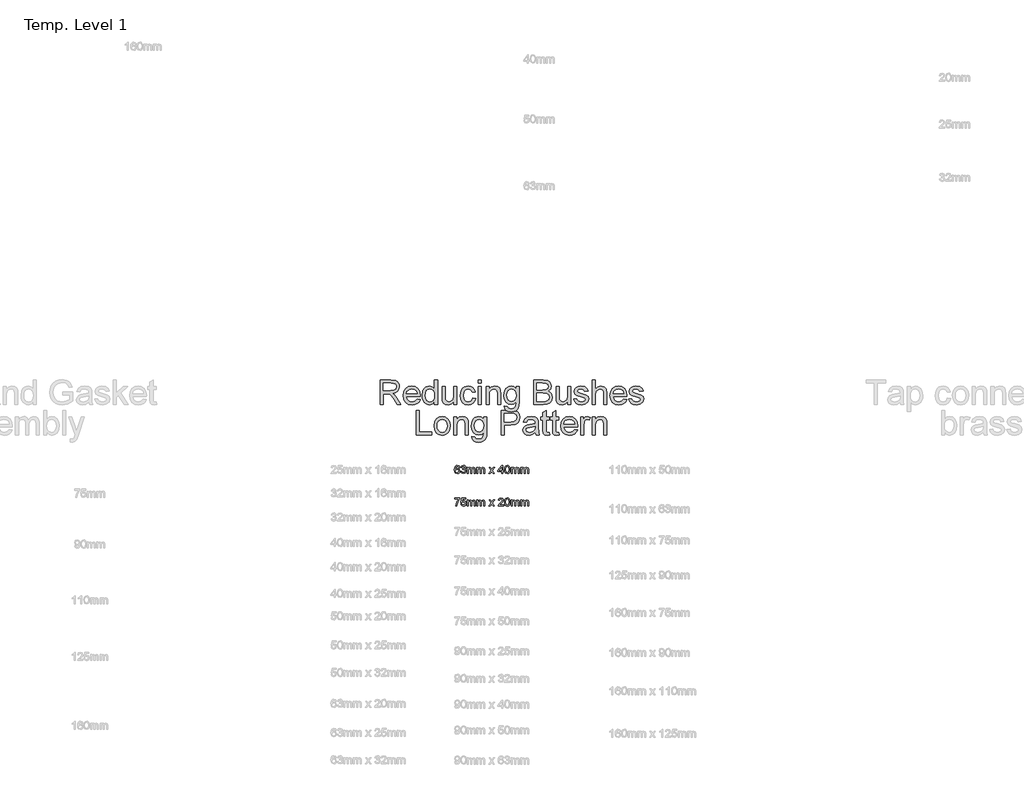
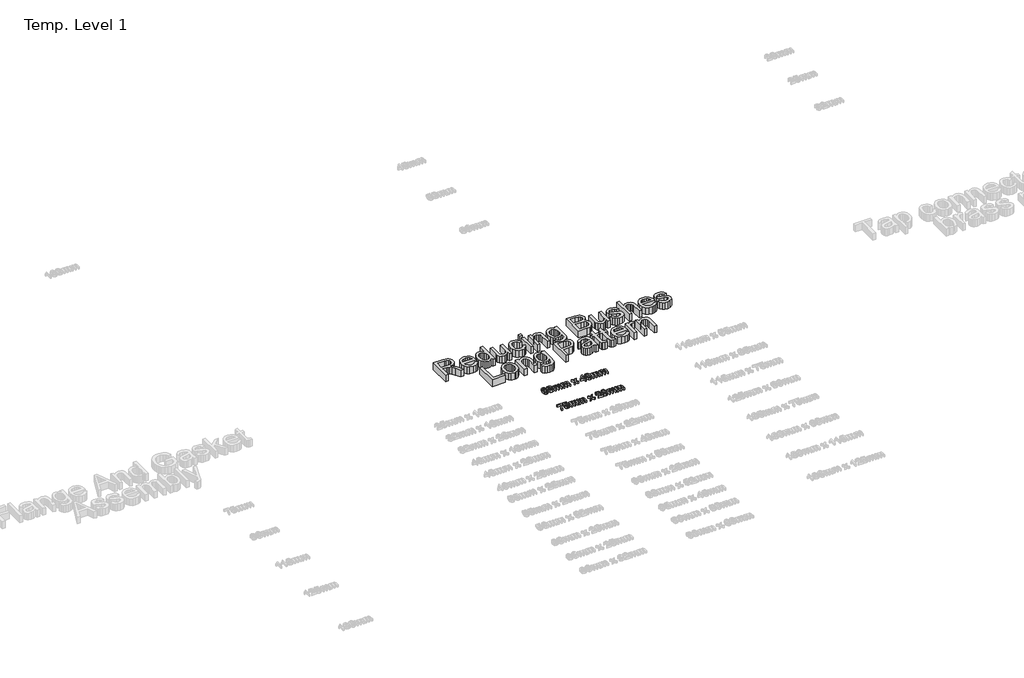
# One storey, part 47 of 62: 3 proxies.
"""IFC4 building model written with IfcOpenShell, lengths in millimetres."""

from ifc_helpers import new_model, si_unit, origin, origin_with_axes, place, context, project, spatial, polyline, outline, extrude, element, save

model = new_model("IFC4")

# Units and contexts
model_context = context("Model", 3, world=origin())
ifc_project = project(units=[si_unit("LENGTHUNIT", "METRE", prefix="MILLI")], contexts=[model_context])

# Site, building, storey
site = spatial("IfcSite", under=ifc_project)
building = spatial("IfcBuilding", under=site)
storey = spatial("IfcBuildingStorey", under=building, Name="Temp. Level 1", Elevation=0.0)

# Proxies
placement = place(None, origin())
element("IfcBuildingElementProxy", 1, Name="150mm Arial", ObjectType="150mm Arial", at=placement, inside=storey, context=model_context, shape_type="SweptSolid", body=[
    extrude(outline(polyline([(23633.4253288, -3979.0446709), (23633.4253288, -3831.3523632), (23697.0671558, -3831.3523632), (23726.6164346, -3835.3367382), (23735.7119875, -3840.8535651), (23742.7702808, -3849.4352959), (23747.3000284, -3860.0768223), (23748.8099442, -3871.7730362), (23746.3084418, -3886.3223151), (23738.8039346, -3898.3836132), (23726.071062, -3907.2267622), (23707.8844635, -3912.1215939), (23718.3772519, -3920.0182286), (23733.3411942, -3939.0206324), (23757.9685981, -3979.0446709), (23736.5142712, -3979.0446709), (23717.2955212, -3948.4316901), (23703.4133096, -3928.167267), (23693.6597038, -3918.5939497), (23684.8796558, -3915.0783247), (23674.1705212, -3914.4292862), (23651.8868673, -3914.4292862), (23651.8868673, -3979.0446709), (23633.4253288, -3979.0446709)]), holes=[polyline([(23651.8868673, -3895.9677478), (23693.2089827, -3895.9677478), (23714.2847038, -3893.3535651), (23726.2558577, -3884.9881805), (23730.3484058, -3872.4581324), (23728.3967832, -3863.4527237), (23722.5419154, -3856.1961132), (23712.4682976, -3851.4094545), (23697.860425, -3849.8139016), (23651.8868673, -3849.8139016), (23651.8868673, -3895.9677478)])]), origin_with_axes(), (0.0, 0.0, 1.0), 50.0),
    extrude(outline(polyline([(23854.7474442, -3946.7369786), (23872.8484058, -3949.0446709), (23866.3264707, -3962.683493), (23855.9193192, -3972.8788055), (23841.8613264, -3979.2339737), (23824.3868673, -3981.3523632), (23802.7252087, -3977.6970146), (23786.0575404, -3966.7309689), (23775.4295356, -3949.1663656), (23771.8868673, -3925.7153439), (23775.4655933, -3901.4755603), (23786.2017712, -3883.3475555), (23802.6440788, -3872.0434689), (23823.3411942, -3868.2754401), (23843.3937784, -3872.0344545), (23859.4169154, -3883.3114978), (23869.9232255, -3901.4034449), (23873.4253288, -3925.6071709), (23873.3171558, -3930.5831324), (23790.3484058, -3930.5831324), (23793.5440188, -3944.402243), (23800.9673962, -3954.5614978), (23811.681038, -3960.808493), (23824.7474442, -3962.8908247), (23842.8484058, -3959.0326516), (23854.7474442, -3946.7369786)]), holes=[polyline([(23790.3484058, -3912.1215939), (23854.9637904, -3912.1215939), (23852.4667952, -3902.3679882), (23847.5719635, -3895.3908247), (23836.8087423, -3888.9004401), (23823.2690788, -3886.7369786), (23810.8246678, -3888.4632406), (23800.5347038, -3893.6420266), (23793.3817591, -3901.7144425), (23790.3484058, -3912.1215939)])]), origin_with_axes(), (0.0, 0.0, 1.0), 50.0),
    extrude(outline(polyline([(23958.8099442, -3979.0446709), (23958.8099442, -3961.6288055), (23946.595401, -3976.4214737), (23929.7113865, -3981.3523632), (23917.7762904, -3979.5675074), (23906.8508096, -3974.2129401), (23897.6020115, -3965.6627598), (23890.6969635, -3954.2910651), (23886.3970837, -3940.5575915), (23884.9637904, -3924.9220747), (23890.2462423, -3895.5350555), (23896.8448, -3883.8794064), (23906.0755692, -3875.3066901), (23917.2399322, -3870.0332526), (23929.6392712, -3868.2754401), (23946.6585019, -3873.3054882), (23958.8099442, -3886.3764016), (23958.8099442, -3831.3523632), (23977.2714827, -3831.3523632), (23977.2714827, -3979.0446709), (23958.8099442, -3979.0446709)]), holes=[polyline([(23903.4253288, -3924.8499593), (23905.5076606, -3941.5491781), (23911.7546558, -3953.4256805), (23920.8321798, -3960.5245387), (23931.4060981, -3962.8908247), (23941.9755091, -3960.6327117), (23950.8231654, -3953.8583728), (23956.8132495, -3942.441606), (23958.8099442, -3926.2562093), (23956.7771918, -3908.5608968), (23950.6789346, -3896.292267), (23941.6059178, -3889.1258007), (23930.6488865, -3886.7369786), (23919.9667952, -3889.0311492), (23911.2137904, -3895.9136612), (23905.3724442, -3907.7360771), (23903.4253288, -3924.8499593)])]), origin_with_axes(), (0.0, 0.0, 1.0), 50.0),
    extrude(outline(polyline([(24074.1945596, -3979.0446709), (24074.1945596, -3960.4028439), (24059.735425, -3976.1149834), (24040.8772519, -3981.3523632), (24023.5154731, -3977.6744786), (24011.5443192, -3968.4437093), (24006.0455212, -3954.8499593), (24004.9637904, -3937.6864978), (24004.9637904, -3870.5831324), (24023.4253288, -3870.5831324), (24023.4253288, -3928.9965939), (24024.5431173, -3947.8187093), (24031.8448, -3958.870392), (24045.6008096, -3962.8908247), (24061.0154731, -3958.7802478), (24071.2017712, -3947.5843343), (24074.1945596, -3927.0134209), (24074.1945596, -3870.5831324), (24092.6560981, -3870.5831324), (24092.6560981, -3979.0446709), (24074.1945596, -3979.0446709)])), origin_with_axes(), (0.0, 0.0, 1.0), 50.0),
    extrude(outline(polyline([(24187.2714827, -3939.8139016), (24205.7330212, -3942.1215939), (24200.5857856, -3958.5413656), (24190.9133096, -3970.9497189), (24177.62605, -3978.7517021), (24161.6344635, -3981.3523632), (24141.9965428, -3977.7240579), (24126.6404731, -3966.839142), (24116.7291149, -3949.17538), (24113.4253288, -3925.2105362), (24119.0683577, -3894.5434689), (24126.1897519, -3883.0455723), (24136.2678769, -3874.8379401), (24148.3246678, -3869.9160651), (24161.3820596, -3868.2754401), (24176.9815188, -3870.5290459), (24189.4529731, -3877.2898632), (24198.399788, -3888.1973151), (24203.4253288, -3902.8908247), (24184.9637904, -3905.198517), (24176.4000885, -3891.370392), (24161.5262904, -3886.7369786), (24149.5957014, -3889.0176276), (24140.12605, -3895.8595747), (24133.946663, -3907.6324112), (24131.8868673, -3924.7057286), (24133.9015909, -3942.0089137), (24139.9457615, -3953.8223151), (24149.2441389, -3960.6236973), (24161.0214827, -3962.8908247), (24170.5812784, -3961.4755603), (24178.4193192, -3957.229767), (24184.1209418, -3950.0452718), (24187.2714827, -3939.8139016)])), origin_with_axes(), (0.0, 0.0, 1.0), 50.0),
    extrude(outline(polyline([(24221.8868673, -3849.8139016), (24221.8868673, -3831.3523632), (24240.3484058, -3831.3523632), (24240.3484058, -3849.8139016), (24221.8868673, -3849.8139016)])), origin_with_axes(), (0.0, 0.0, 1.0), 50.0),
    extrude(outline(polyline([(24221.8868673, -3979.0446709), (24221.8868673, -3870.5831324), (24240.3484058, -3870.5831324), (24240.3484058, -3979.0446709), (24221.8868673, -3979.0446709)])), origin_with_axes(), (0.0, 0.0, 1.0), 50.0),
    extrude(outline(polyline([(24268.0407135, -3979.0446709), (24268.0407135, -3870.5831324), (24286.5022519, -3870.5831324), (24286.5022519, -3885.7273632), (24300.6188385, -3872.6384209), (24319.891675, -3868.2754401), (24337.3255692, -3871.7910651), (24349.2246077, -3881.0218343), (24354.7594635, -3894.5975555), (24355.7330212, -3912.4461132), (24355.7330212, -3979.0446709), (24337.2714827, -3979.0446709), (24337.2714827, -3914.9340939), (24335.1440788, -3898.5999593), (24327.62605, -3889.964142), (24314.9517712, -3886.7369786), (24304.1389707, -3888.5488776), (24294.9217231, -3893.9845747), (24288.6071197, -3904.4863776), (24286.5022519, -3921.4965939), (24286.5022519, -3979.0446709), (24268.0407135, -3979.0446709)])), origin_with_axes(), (0.0, 0.0, 1.0), 50.0),
    extrude(outline(polyline([(24376.5022519, -3988.2754401), (24394.9637904, -3990.5831324), (24400.9493673, -4000.3187093), (24418.8700404, -4004.4292862), (24437.7642712, -3999.7778439), (24446.7786942, -3986.7249593), (24448.0407135, -3965.198517), (24435.0419154, -3975.5831324), (24419.1945596, -3979.0446709), (24400.1606053, -3975.0152237), (24385.9673962, -3962.9268824), (24377.1377688, -3945.2045266), (24374.1945596, -3924.2730362), (24379.4770115, -3895.6612574), (24385.9403529, -3884.0461733), (24394.7654731, -3875.4148632), (24405.6503889, -3870.0602959), (24418.2931173, -3868.2754401), (24434.7624683, -3872.3139016), (24448.0407135, -3884.4292862), (24448.0407135, -3870.5831324), (24466.5022519, -3870.5831324), (24466.5022519, -3964.2249593), (24465.2402327, -3985.8460531), (24461.454175, -4000.0843343), (24454.9322399, -4009.5269425), (24445.4625885, -4016.761017), (24433.2525524, -4021.3583728), (24418.5094635, -4022.8908247), (24401.3324803, -4020.7318704), (24387.8063385, -4014.2550074), (24379.1299563, -4003.4422069), (24376.5022519, -3988.2754401)]), holes=[polyline([(24392.6560981, -3923.011017), (24394.6257495, -3939.9446108), (24400.5347038, -3951.5867382), (24409.4184178, -3958.3340338), (24420.3123481, -3960.5831324), (24431.1251486, -3958.3475555), (24440.0539346, -3951.6408247), (24446.0440188, -3940.1474353), (24448.0407135, -3923.5518824), (24445.985425, -3907.5467742), (24439.8195596, -3896.0218343), (24430.7600644, -3889.0581925), (24420.0238865, -3886.7369786), (24409.4815188, -3889.0221348), (24400.6428769, -3895.8776036), (24394.6527928, -3907.2312694), (24392.6560981, -3923.011017)])]), origin_with_axes(), (0.0, 0.0, 1.0), 50.0),
    extrude(outline(polyline([(24554.1945596, -3979.0446709), (24554.1945596, -3831.3523632), (24610.5527327, -3831.3523632), (24638.1548962, -3835.6973151), (24647.4307375, -3841.2096348), (24654.4529731, -3849.0566901), (24660.3484058, -3867.9509209), (24655.3904731, -3885.2045266), (24640.4085019, -3898.2754401), (24650.8697399, -3903.7381805), (24658.5996077, -3912.0494786), (24663.3727447, -3922.6594545), (24664.9637904, -3935.0182286), (24660.6188385, -3954.8679882), (24649.8556173, -3969.0026036), (24633.7919154, -3976.5026036), (24610.1200404, -3979.0446709), (24554.1945596, -3979.0446709)]), holes=[polyline([(24572.6560981, -3891.3523632), (24606.3700404, -3891.3523632), (24626.0575404, -3889.7658247), (24637.9024923, -3882.932892), (24641.8868673, -3870.9076516), (24638.172925, -3858.8643824), (24627.5359058, -3851.7429882), (24603.8099442, -3849.8139016), (24572.6560981, -3849.8139016), (24572.6560981, -3891.3523632)]), polyline([(24572.6560981, -3960.5831324), (24610.516675, -3960.5831324), (24624.2185981, -3959.8619786), (24635.8111462, -3955.8415459), (24643.4914346, -3947.6384209), (24646.5022519, -3935.198517), (24642.9685981, -3920.8475555), (24631.5202808, -3912.2838536), (24608.7137904, -3909.8139016), (24572.6560981, -3909.8139016), (24572.6560981, -3960.5831324)])]), origin_with_axes(), (0.0, 0.0, 1.0), 50.0),
    extrude(outline(polyline([(24757.2714827, -3979.0446709), (24757.2714827, -3960.4028439), (24742.8123481, -3976.1149834), (24723.954175, -3981.3523632), (24706.5923962, -3977.6744786), (24694.6212423, -3968.4437093), (24689.1224442, -3954.8499593), (24688.0407135, -3937.6864978), (24688.0407135, -3870.5831324), (24706.5022519, -3870.5831324), (24706.5022519, -3928.9965939), (24707.6200404, -3947.8187093), (24714.9217231, -3958.870392), (24728.6777327, -3962.8908247), (24744.0923962, -3958.7802478), (24754.2786942, -3947.5843343), (24757.2714827, -3927.0134209), (24757.2714827, -3870.5831324), (24775.7330212, -3870.5831324), (24775.7330212, -3979.0446709), (24757.2714827, -3979.0446709)])), origin_with_axes(), (0.0, 0.0, 1.0), 50.0),
    extrude(outline(polyline([(24794.1945596, -3946.7369786), (24812.6560981, -3944.4292862), (24815.5677567, -3952.3259209), (24821.2017712, -3958.1312093), (24840.7810981, -3962.8908247), (24859.6032135, -3958.5278439), (24865.7330212, -3948.2874593), (24859.5671558, -3939.9941901), (24840.5647519, -3934.729767), (24812.7642712, -3925.6973151), (24800.6308577, -3915.1504401), (24796.5022519, -3900.2586132), (24799.8195596, -3886.5026036), (24808.8700404, -3875.9917862), (24820.6068192, -3870.5290459), (24836.4902327, -3868.2754401), (24858.954175, -3871.8992382), (24873.2330212, -3881.7069305), (24879.579175, -3898.2754401), (24861.1176365, -3900.5831324), (24854.1765308, -3890.3968343), (24837.9325404, -3886.7369786), (24820.2642712, -3890.2345747), (24814.9637904, -3898.3836132), (24817.1633096, -3903.7562093), (24824.0503288, -3907.8307286), (24839.9517712, -3911.761017), (24867.0491269, -3920.4509209), (24879.6332615, -3930.2946709), (24884.1945596, -3946.3403439), (24878.8399923, -3964.0086132), (24863.3892712, -3976.8271228), (24840.5286942, -3981.3523632), (24821.9139106, -3979.1708728), (24808.329175, -3972.6264016), (24799.2606654, -3961.7910651), (24794.1945596, -3946.7369786)])), origin_with_axes(), (0.0, 0.0, 1.0), 50.0),
    extrude(outline(polyline([(24904.9637904, -3979.0446709), (24904.9637904, -3831.3523632), (24923.4253288, -3831.3523632), (24923.4253288, -3885.6552478), (24937.8213625, -3872.620392), (24955.5527327, -3868.2754401), (24976.2859058, -3873.0170266), (24988.8700404, -3886.1239978), (24992.6560981, -3910.3908247), (24992.6560981, -3979.0446709), (24974.1945596, -3979.0446709), (24974.1945596, -3912.3018824), (24972.7252087, -3900.745392), (24968.3171558, -3892.8307286), (24961.2137904, -3888.2604161), (24951.6585019, -3886.7369786), (24936.5323, -3890.8475555), (24926.4361462, -3901.9893824), (24923.4253288, -3921.4244786), (24923.4253288, -3979.0446709), (24904.9637904, -3979.0446709)])), origin_with_axes(), (0.0, 0.0, 1.0), 50.0),
    extrude(outline(polyline([(25093.9782135, -3946.7369786), (25112.079175, -3949.0446709), (25105.5572399, -3962.683493), (25095.1500885, -3972.8788055), (25081.0920957, -3979.2339737), (25063.6176365, -3981.3523632), (25041.9559779, -3977.6970146), (25025.2883096, -3966.7309689), (25014.6603048, -3949.1663656), (25011.1176365, -3925.7153439), (25014.6963625, -3901.4755603), (25025.4325404, -3883.3475555), (25041.8748481, -3872.0434689), (25062.5719635, -3868.2754401), (25082.6245476, -3872.0344545), (25098.6476846, -3883.3114978), (25109.1539947, -3901.4034449), (25112.6560981, -3925.6071709), (25112.547925, -3930.5831324), (25029.579175, -3930.5831324), (25032.774788, -3944.402243), (25040.1981654, -3954.5614978), (25050.9118072, -3960.808493), (25063.9782135, -3962.8908247), (25082.079175, -3959.0326516), (25093.9782135, -3946.7369786)]), holes=[polyline([(25029.579175, -3912.1215939), (25094.1945596, -3912.1215939), (25091.6975644, -3902.3679882), (25086.8027327, -3895.3908247), (25076.0395115, -3888.9004401), (25062.4998481, -3886.7369786), (25050.055437, -3888.4632406), (25039.7654731, -3893.6420266), (25032.6125284, -3901.7144425), (25029.579175, -3912.1215939)])]), origin_with_axes(), (0.0, 0.0, 1.0), 50.0),
    extrude(outline(polyline([(25124.1945596, -3946.7369786), (25142.6560981, -3944.4292862), (25145.5677567, -3952.3259209), (25151.2017712, -3958.1312093), (25170.7810981, -3962.8908247), (25189.6032135, -3958.5278439), (25195.7330212, -3948.2874593), (25189.5671558, -3939.9941901), (25170.5647519, -3934.729767), (25142.7642712, -3925.6973151), (25130.6308577, -3915.1504401), (25126.5022519, -3900.2586132), (25129.8195596, -3886.5026036), (25138.8700404, -3875.9917862), (25150.6068192, -3870.5290459), (25166.4902327, -3868.2754401), (25188.954175, -3871.8992382), (25203.2330212, -3881.7069305), (25209.579175, -3898.2754401), (25191.1176365, -3900.5831324), (25184.1765308, -3890.3968343), (25167.9325404, -3886.7369786), (25150.2642712, -3890.2345747), (25144.9637904, -3898.3836132), (25147.1633096, -3903.7562093), (25154.0503288, -3907.8307286), (25169.9517712, -3911.761017), (25197.0491269, -3920.4509209), (25209.6332615, -3930.2946709), (25214.1945596, -3946.3403439), (25208.8399923, -3964.0086132), (25193.3892712, -3976.8271228), (25170.5286942, -3981.3523632), (25151.9139106, -3979.1708728), (25138.329175, -3972.6264016), (25129.2606654, -3961.7910651), (25124.1945596, -3946.7369786)])), origin_with_axes(), (0.0, 0.0, 1.0), 50.0),
    extrude(outline(polyline([(23850.3484058, -4161.3523632), (23850.3484058, -4013.6600555), (23868.8099442, -4013.6600555), (23868.8099442, -4142.8908247), (23942.6560981, -4142.8908247), (23942.6560981, -4161.3523632), (23850.3484058, -4161.3523632)])), origin_with_axes(), (0.0, 0.0, 1.0), 50.0),
    extrude(outline(polyline([(23956.5022519, -4107.1215939), (23960.4956413, -4080.9707526), (23972.4758096, -4062.5903439), (23987.2774923, -4053.5849353), (24004.9998481, -4050.5831324), (24024.3943793, -4054.238481), (24039.8856654, -4065.2045266), (24050.040413, -4082.6158848), (24053.4253288, -4105.6071709), (24051.9289346, -4124.2580122), (24047.4397519, -4138.4557286), (24040.0884899, -4149.0882406), (24030.0058577, -4157.0434689), (24018.0301966, -4162.0059088), (24004.9998481, -4163.6600555), (23985.3709418, -4160.0182286), (23969.8976846, -4149.0927478), (23959.8511101, -4131.3163055), (23956.5022519, -4107.1215939)]), holes=[polyline([(23974.9637904, -4107.0855362), (23977.1002087, -4123.7937694), (23983.5094635, -4135.6973151), (23993.1548962, -4142.8232165), (24004.9998481, -4145.198517), (24016.7907135, -4142.8096949), (24026.4181173, -4135.6432286), (24032.8273721, -4123.5819305), (24034.9637904, -4106.5086132), (24032.8138505, -4090.2871588), (24026.3640308, -4078.5458728), (24016.7231053, -4071.4199713), (24004.9998481, -4069.0446709), (23993.1548962, -4071.4109569), (23983.5094635, -4078.5098151), (23977.1002087, -4090.3863175), (23974.9637904, -4107.0855362)])]), origin_with_axes(), (0.0, 0.0, 1.0), 50.0),
    extrude(outline(polyline([(24074.1945596, -4161.3523632), (24074.1945596, -4052.8908247), (24092.6560981, -4052.8908247), (24092.6560981, -4068.0350555), (24106.7726846, -4054.9461132), (24126.0455212, -4050.5831324), (24143.4794154, -4054.0987574), (24155.3784538, -4063.3295266), (24160.9133096, -4076.9052478), (24161.8868673, -4094.7538055), (24161.8868673, -4161.3523632), (24143.4253288, -4161.3523632), (24143.4253288, -4097.2417862), (24141.297925, -4080.9076516), (24133.7798962, -4072.2718343), (24121.1056173, -4069.0446709), (24110.2928168, -4070.8565699), (24101.0755692, -4076.292267), (24094.7609659, -4086.7940699), (24092.6560981, -4103.8042862), (24092.6560981, -4161.3523632), (24074.1945596, -4161.3523632)])), origin_with_axes(), (0.0, 0.0, 1.0), 50.0),
    extrude(outline(polyline([(24182.6560981, -4170.5831324), (24201.1176365, -4172.8908247), (24207.1032135, -4182.6264016), (24225.0238865, -4186.7369786), (24243.9181173, -4182.0855362), (24252.9325404, -4169.0326516), (24254.1945596, -4147.5062093), (24241.1957615, -4157.8908247), (24225.3484058, -4161.3523632), (24206.3144514, -4157.3229161), (24192.1212423, -4145.2345747), (24183.2916149, -4127.5122189), (24180.3484058, -4106.5807286), (24185.6308577, -4077.9689497), (24192.094199, -4066.3538656), (24200.9193192, -4057.7225555), (24211.8042351, -4052.3679882), (24224.4469635, -4050.5831324), (24240.9163144, -4054.6215939), (24254.1945596, -4066.7369786), (24254.1945596, -4052.8908247), (24272.6560981, -4052.8908247), (24272.6560981, -4146.5326516), (24271.3940788, -4168.1537454), (24267.6080212, -4182.3920266), (24261.0860861, -4191.8346348), (24251.6164346, -4199.0687093), (24239.4063986, -4203.6660651), (24224.6633096, -4205.198517), (24207.4863264, -4203.0395627), (24193.9601846, -4196.5626997), (24185.2838024, -4185.7498992), (24182.6560981, -4170.5831324)]), holes=[polyline([(24198.8099442, -4105.3187093), (24200.7795957, -4122.2523031), (24206.68855, -4133.8944305), (24215.5722639, -4140.6417262), (24226.4661942, -4142.8908247), (24237.2789947, -4140.6552478), (24246.2077808, -4133.948517), (24252.1978649, -4122.4551276), (24254.1945596, -4105.8595747), (24252.1392712, -4089.8544665), (24245.9734058, -4078.3295266), (24236.9139106, -4071.3658848), (24226.1777327, -4069.0446709), (24215.6353649, -4071.3298271), (24206.7967231, -4078.1852959), (24200.8066389, -4089.5389617), (24198.8099442, -4105.3187093)])]), origin_with_axes(), (0.0, 0.0, 1.0), 50.0),
    extrude(outline(polyline([(24360.3484058, -4161.3523632), (24360.3484058, -4013.6600555), (24415.0839827, -4013.6600555), (24437.1512904, -4015.0663055), (24455.0899923, -4021.9713536), (24466.7185981, -4036.2501997), (24471.1176365, -4056.3884209), (24468.1473841, -4073.7952718), (24459.2366269, -4088.2994786), (24442.5734659, -4098.089142), (24416.3460019, -4101.3523632), (24378.8099442, -4101.3523632), (24378.8099442, -4161.3523632), (24360.3484058, -4161.3523632)]), holes=[polyline([(24378.8099442, -4082.8908247), (24417.4277327, -4082.8908247), (24433.797925, -4081.1961132), (24444.6152327, -4076.1119786), (24450.6458817, -4067.9539257), (24452.6560981, -4057.0374593), (24447.9145115, -4041.7489978), (24435.4565788, -4033.3836132), (24416.9950404, -4032.1215939), (24378.8099442, -4032.1215939), (24378.8099442, -4082.8908247)])]), origin_with_axes(), (0.0, 0.0, 1.0), 50.0),
    extrude(outline(polyline([(24563.4253288, -4147.5062093), (24545.5226846, -4160.0182286), (24525.7450404, -4163.6600555), (24510.3168553, -4161.4695507), (24498.9361462, -4154.8980362), (24491.9184178, -4144.9190699), (24489.579175, -4132.5062093), (24493.1128288, -4117.9028439), (24502.3976846, -4107.3018824), (24515.3243673, -4101.2441901), (24531.297925, -4098.4677478), (24563.3171558, -4092.1215939), (24563.4253288, -4088.011017), (24562.1542952, -4079.7718343), (24558.3411942, -4074.3812093), (24549.81355, -4070.3788055), (24537.9325404, -4069.0446709), (24519.2546558, -4072.5963536), (24510.3484058, -4085.198517), (24491.8868673, -4082.8908247), (24499.8736462, -4064.8619786), (24515.9553769, -4054.2970747), (24540.3123481, -4050.5831324), (24562.6861462, -4053.8643824), (24575.3243673, -4062.1035651), (24580.985425, -4074.6336132), (24581.8868673, -4090.7874593), (24581.8868673, -4113.7562093), (24582.8243673, -4145.8295266), (24586.5022519, -4161.3523632), (24568.0407135, -4161.3523632), (24563.4253288, -4147.5062093)]), holes=[polyline([(24563.4253288, -4110.5831324), (24533.641675, -4116.2441901), (24517.7582615, -4119.2369786), (24510.5647519, -4124.104767), (24508.0407135, -4131.2081324), (24513.5395115, -4141.1961132), (24529.6753288, -4145.198517), (24548.3532135, -4140.7814497), (24560.3964827, -4130.0903439), (24563.3171558, -4115.8114978), (24563.4253288, -4110.5831324)])]), origin_with_axes(), (0.0, 0.0, 1.0), 50.0),
    extrude(outline(polyline([(24646.5022519, -4145.9557286), (24648.8099442, -4161.8932286), (24634.9998481, -4163.6600555), (24619.5310981, -4160.5951516), (24611.8147519, -4152.5542862), (24609.579175, -4131.604767), (24609.579175, -4071.3523632), (24595.7330212, -4071.3523632), (24595.7330212, -4052.8908247), (24609.579175, -4052.8908247), (24609.579175, -4026.5326516), (24628.0407135, -4015.6792862), (24628.0407135, -4052.8908247), (24646.5022519, -4052.8908247), (24646.5022519, -4071.3523632), (24628.0407135, -4071.3523632), (24628.0407135, -4131.0639016), (24629.0142712, -4140.5831324), (24632.1693192, -4143.9545266), (24638.4613865, -4145.198517), (24646.5022519, -4145.9557286)])), origin_with_axes(), (0.0, 0.0, 1.0), 50.0),
    extrude(outline(polyline([(24704.1945596, -4145.9557286), (24706.5022519, -4161.8932286), (24692.6921558, -4163.6600555), (24677.2234058, -4160.5951516), (24669.5070596, -4152.5542862), (24667.2714827, -4131.604767), (24667.2714827, -4071.3523632), (24653.4253288, -4071.3523632), (24653.4253288, -4052.8908247), (24667.2714827, -4052.8908247), (24667.2714827, -4026.5326516), (24685.7330212, -4015.6792862), (24685.7330212, -4052.8908247), (24704.1945596, -4052.8908247), (24704.1945596, -4071.3523632), (24685.7330212, -4071.3523632), (24685.7330212, -4131.0639016), (24686.7065788, -4140.5831324), (24689.8616269, -4143.9545266), (24696.1536942, -4145.198517), (24704.1945596, -4145.9557286)])), origin_with_axes(), (0.0, 0.0, 1.0), 50.0),
    extrude(outline(polyline([(24798.5935981, -4129.0446709), (24816.6945596, -4131.3523632), (24810.1726245, -4144.9911853), (24799.7654731, -4155.1864978), (24785.7074803, -4161.5416661), (24768.2330212, -4163.6600555), (24746.5713625, -4160.0047069), (24729.9036942, -4149.0386612), (24719.2756894, -4131.4740579), (24715.7330212, -4108.0230362), (24719.3117471, -4083.7832526), (24730.047925, -4065.6552478), (24746.4902327, -4054.3511612), (24767.1873481, -4050.5831324), (24787.2399322, -4054.3421468), (24803.2630692, -4065.6191901), (24813.7693793, -4083.7111372), (24817.2714827, -4107.9148632), (24817.1633096, -4112.8908247), (24734.1945596, -4112.8908247), (24737.3901726, -4126.7099353), (24744.81355, -4136.8691901), (24755.5271918, -4143.1161853), (24768.5935981, -4145.198517), (24786.6945596, -4141.3403439), (24798.5935981, -4129.0446709)]), holes=[polyline([(24734.1945596, -4094.4292862), (24798.8099442, -4094.4292862), (24796.312949, -4084.6756805), (24791.4181173, -4077.698517), (24780.6548962, -4071.2081324), (24767.1152327, -4069.0446709), (24754.6708216, -4070.7709329), (24744.3808577, -4075.9497189), (24737.227913, -4084.0221348), (24734.1945596, -4094.4292862)])]), origin_with_axes(), (0.0, 0.0, 1.0), 50.0),
    extrude(outline(polyline([(24835.7330212, -4161.3523632), (24835.7330212, -4052.8908247), (24851.8868673, -4052.8908247), (24851.8868673, -4068.9364978), (24863.3532135, -4054.1528439), (24874.891675, -4050.5831324), (24893.4253288, -4056.2802478), (24887.2594635, -4072.8307286), (24874.2786942, -4069.0446709), (24863.8399923, -4072.6864978), (24857.1873481, -4082.7826516), (24854.1945596, -4104.3451516), (24854.1945596, -4161.3523632), (24835.7330212, -4161.3523632)])), origin_with_axes(), (0.0, 0.0, 1.0), 50.0),
    extrude(outline(polyline([(24904.9637904, -4161.3523632), (24904.9637904, -4052.8908247), (24923.4253288, -4052.8908247), (24923.4253288, -4068.0350555), (24937.5419154, -4054.9461132), (24956.8147519, -4050.5831324), (24974.2486462, -4054.0987574), (24986.1476846, -4063.3295266), (24991.6825404, -4076.9052478), (24992.6560981, -4094.7538055), (24992.6560981, -4161.3523632), (24974.1945596, -4161.3523632), (24974.1945596, -4097.2417862), (24972.0671558, -4080.9076516), (24964.5491269, -4072.2718343), (24951.8748481, -4069.0446709), (24941.0620476, -4070.8565699), (24931.8448, -4076.292267), (24925.5301966, -4086.7940699), (24923.4253288, -4103.8042862), (24923.4253288, -4161.3523632), (24904.9637904, -4161.3523632)])), origin_with_axes(), (0.0, 0.0, 1.0), 50.0),
])
element("IfcBuildingElementProxy", 2, Name="50mm Arial", ObjectType="50mm Arial", at=placement, inside=storey, context=model_context, shape_type="SweptSolid", body=[
    extrude(outline(polyline([(24110.9178032, -4356.870358), (24104.763957, -4357.6395887), (24102.4322262, -4352.5073772), (24096.2663609, -4349.947281), (24090.7134762, -4351.4376657), (24086.5127551, -4357.0326176), (24084.763957, -4368.0001657), (24090.1906397, -4363.0903099), (24096.9153993, -4361.4857426), (24107.3721301, -4365.8727618), (24111.6870339, -4377.2068964), (24109.6557839, -4385.698483), (24104.0668416, -4391.7080983), (24096.0019378, -4393.7934349), (24083.4598705, -4388.2645887), (24079.8225508, -4380.9448772), (24078.6101109, -4370.0434349), (24079.9562647, -4357.7868243), (24083.9947262, -4349.4064157), (24089.5085484, -4345.1966801), (24096.6509762, -4343.7934349), (24106.3745339, -4347.2669926), (24110.9178032, -4356.870358)]), holes=[polyline([(24084.763957, -4377.1107426), (24086.1882359, -4382.4412714), (24089.9742935, -4386.3114637), (24095.5211685, -4387.6395887), (24102.7747743, -4384.8871849), (24105.5331878, -4377.4112233), (24102.810832, -4370.2537714), (24095.2687647, -4367.6395887), (24087.8228512, -4370.2537714), (24084.763957, -4377.1107426)])]), origin_with_axes(), (0.0, 0.0, 1.0), 15.0),
    extrude(outline(polyline([(24117.0716493, -4379.947281), (24123.2254955, -4379.1780503), (24126.6209282, -4385.6564157), (24132.9730916, -4387.6395887), (24140.4490532, -4384.9112233), (24143.2254955, -4378.1564157), (24140.4730916, -4371.792233), (24133.4778993, -4369.2742041), (24129.1629955, -4369.947281), (24129.8480916, -4363.7934349), (24137.8168416, -4362.0987233), (24140.9178032, -4356.666031), (24138.670207, -4351.8523291), (24132.8769378, -4349.947281), (24127.0115532, -4351.870358), (24123.9947262, -4357.6395887), (24117.8408801, -4356.870358), (24122.8769378, -4347.2189157), (24132.6605916, -4343.7934349), (24140.0824666, -4345.4821368), (24145.2747743, -4350.0975214), (24147.0716493, -4356.3054541), (24145.3649185, -4361.978531), (24140.3168416, -4366.0530503), (24147.0235724, -4370.259781), (24149.3793416, -4378.2645887), (24144.6678032, -4389.2742041), (24132.7567455, -4393.7934349), (24121.9634762, -4389.9352618), (24117.0716493, -4379.947281)])), origin_with_axes(), (0.0, 0.0, 1.0), 15.0),
    extrude(outline(polyline([(24156.3024185, -4393.0242041), (24156.3024185, -4356.870358), (24162.4562647, -4356.870358), (24162.4562647, -4362.8198772), (24166.6870339, -4357.9460791), (24172.7086685, -4356.1011272), (24178.8745339, -4357.9821368), (24182.263957, -4363.2525695), (24187.0656397, -4357.8889878), (24193.1293416, -4356.1011272), (24201.1762166, -4359.0758868), (24203.9947262, -4368.2405503), (24203.9947262, -4393.0242041), (24197.8408801, -4393.0242041), (24197.8408801, -4370.884781), (24197.2699666, -4365.7465599), (24195.2026589, -4363.2165118), (24191.6870339, -4362.2549733), (24185.6353512, -4364.7189157), (24183.2254955, -4372.6155503), (24183.2254955, -4393.0242041), (24177.0716493, -4393.0242041), (24177.0716493, -4370.1996849), (24175.6473705, -4364.2381464), (24170.9778993, -4362.2549733), (24166.4226109, -4363.5770887), (24163.3937647, -4367.447281), (24162.4562647, -4374.791031), (24162.4562647, -4393.0242041), (24156.3024185, -4393.0242041)])), origin_with_axes(), (0.0, 0.0, 1.0), 15.0),
    extrude(outline(polyline([(24213.2254955, -4393.0242041), (24213.2254955, -4356.870358), (24219.3793416, -4356.870358), (24219.3793416, -4362.8198772), (24223.6101109, -4357.9460791), (24229.6317455, -4356.1011272), (24235.7976109, -4357.9821368), (24239.1870339, -4363.2525695), (24243.9887166, -4357.8889878), (24250.0524185, -4356.1011272), (24258.0992935, -4359.0758868), (24260.9178032, -4368.2405503), (24260.9178032, -4393.0242041), (24254.763957, -4393.0242041), (24254.763957, -4370.884781), (24254.1930435, -4365.7465599), (24252.1257359, -4363.2165118), (24248.6101109, -4362.2549733), (24242.5584282, -4364.7189157), (24240.1485724, -4372.6155503), (24240.1485724, -4393.0242041), (24233.9947262, -4393.0242041), (24233.9947262, -4370.1996849), (24232.5704474, -4364.2381464), (24227.9009762, -4362.2549733), (24223.3456878, -4363.5770887), (24220.3168416, -4367.447281), (24219.3793416, -4374.791031), (24219.3793416, -4393.0242041), (24213.2254955, -4393.0242041)])), origin_with_axes(), (0.0, 0.0, 1.0), 15.0),
    extrude(outline(polyline([(24285.5331878, -4393.0242041), (24298.6822262, -4374.8511272), (24286.3024185, -4356.870358), (24293.7062647, -4356.870358), (24299.6798224, -4365.5242041), (24302.4682839, -4369.6107426), (24304.8841493, -4366.2693964), (24311.6870339, -4356.870358), (24319.0908801, -4356.870358), (24306.0860724, -4374.8511272), (24318.6101109, -4393.0242041), (24311.2062647, -4393.0242041), (24303.670207, -4382.0987233), (24302.2879955, -4380.103531), (24292.9370339, -4393.0242041), (24285.5331878, -4393.0242041)])), origin_with_axes(), (0.0, 0.0, 1.0), 15.0),
    extrude(outline(polyline([(24361.6870339, -4393.0242041), (24361.6870339, -4381.4857426), (24339.3793416, -4381.4857426), (24339.3793416, -4375.3318964), (24363.2254955, -4344.5626657), (24367.8408801, -4344.5626657), (24367.8408801, -4375.3318964), (24373.9947262, -4375.3318964), (24373.9947262, -4381.4857426), (24367.8408801, -4381.4857426), (24367.8408801, -4393.0242041), (24361.6870339, -4393.0242041)]), holes=[polyline([(24361.6870339, -4375.3318964), (24361.6870339, -4356.3174733), (24346.951457, -4375.3318964), (24361.6870339, -4375.3318964)])]), origin_with_axes(), (0.0, 0.0, 1.0), 15.0),
    extrude(outline(polyline([(24379.3793416, -4368.8054541), (24381.1882359, -4354.6407907), (24386.560832, -4346.4737233), (24395.5331878, -4343.7934349), (24402.7206878, -4345.3799733), (24407.6846301, -4349.9532907), (24410.5692455, -4357.2369445), (24411.6870339, -4368.8054541), (24409.8961685, -4382.9100214), (24404.5416012, -4391.0951176), (24395.5331878, -4393.7934349), (24384.2831878, -4389.1059349), (24380.6053032, -4380.7796128), (24379.3793416, -4368.8054541)]), holes=[polyline([(24385.5331878, -4368.7934349), (24388.4178032, -4384.0758868), (24395.5331878, -4387.6395887), (24402.6485724, -4384.0638676), (24405.5331878, -4368.7934349), (24402.7447262, -4353.6852618), (24395.4610724, -4349.947281), (24388.513957, -4353.2405503), (24385.5331878, -4368.7934349)])]), origin_with_axes(), (0.0, 0.0, 1.0), 15.0),
    extrude(outline(polyline([(24418.6101109, -4393.0242041), (24418.6101109, -4356.870358), (24424.763957, -4356.870358), (24424.763957, -4362.8198772), (24428.9947262, -4357.9460791), (24435.0163609, -4356.1011272), (24441.1822262, -4357.9821368), (24444.5716493, -4363.2525695), (24449.373332, -4357.8889878), (24455.4370339, -4356.1011272), (24463.4839089, -4359.0758868), (24466.3024185, -4368.2405503), (24466.3024185, -4393.0242041), (24460.1485724, -4393.0242041), (24460.1485724, -4370.884781), (24459.5776589, -4365.7465599), (24457.5103512, -4363.2165118), (24453.9947262, -4362.2549733), (24447.9430435, -4364.7189157), (24445.5331878, -4372.6155503), (24445.5331878, -4393.0242041), (24439.3793416, -4393.0242041), (24439.3793416, -4370.1996849), (24437.9550628, -4364.2381464), (24433.2855916, -4362.2549733), (24428.7303032, -4363.5770887), (24425.701457, -4367.447281), (24424.763957, -4374.791031), (24424.763957, -4393.0242041), (24418.6101109, -4393.0242041)])), origin_with_axes(), (0.0, 0.0, 1.0), 15.0),
    extrude(outline(polyline([(24475.5331878, -4393.0242041), (24475.5331878, -4356.870358), (24481.6870339, -4356.870358), (24481.6870339, -4362.8198772), (24485.9178032, -4357.9460791), (24491.9394378, -4356.1011272), (24498.1053032, -4357.9821368), (24501.4947262, -4363.2525695), (24506.2964089, -4357.8889878), (24512.3601109, -4356.1011272), (24520.4069859, -4359.0758868), (24523.2254955, -4368.2405503), (24523.2254955, -4393.0242041), (24517.0716493, -4393.0242041), (24517.0716493, -4370.884781), (24516.5007359, -4365.7465599), (24514.4334282, -4363.2165118), (24510.9178032, -4362.2549733), (24504.8661205, -4364.7189157), (24502.4562647, -4372.6155503), (24502.4562647, -4393.0242041), (24496.3024185, -4393.0242041), (24496.3024185, -4370.1996849), (24494.8781397, -4364.2381464), (24490.2086685, -4362.2549733), (24485.6533801, -4363.5770887), (24482.6245339, -4367.447281), (24481.6870339, -4374.791031), (24481.6870339, -4393.0242041), (24475.5331878, -4393.0242041)])), origin_with_axes(), (0.0, 0.0, 1.0), 15.0),
])
element("IfcBuildingElementProxy", 3, Name="50mm Arial", ObjectType="50mm Arial", at=placement, inside=storey, context=model_context, shape_type="SweptSolid", body=[
    extrude(outline(polyline([(24079.3793416, -4545.7165118), (24079.3793416, -4539.5626657), (24111.6870339, -4539.5626657), (24111.6870339, -4544.5386272), (24102.5223705, -4557.7778099), (24095.5091493, -4574.6468003), (24093.2254955, -4588.0242041), (24087.0716493, -4588.0242041), (24089.5175628, -4574.1419926), (24096.2303032, -4558.4508868), (24105.5331878, -4545.7165118), (24079.3793416, -4545.7165118)])), origin_with_axes(), (0.0, 0.0, 1.0), 15.0),
    extrude(outline(polyline([(24117.0716493, -4574.947281), (24123.2254955, -4574.1780503), (24126.326457, -4580.5181945), (24132.7567455, -4582.6395887), (24140.4730916, -4579.6888676), (24143.2254955, -4571.8583387), (24140.6473705, -4564.5506464), (24132.8528993, -4561.870358), (24127.4502551, -4562.9400695), (24123.9947262, -4565.7165118), (24117.8408801, -4564.947281), (24123.2254955, -4539.5626657), (24147.0716493, -4539.5626657), (24147.0716493, -4545.7165118), (24128.201457, -4545.7165118), (24125.5692455, -4559.2742041), (24134.5716493, -4555.7165118), (24145.0944859, -4560.1275695), (24149.3793416, -4571.4737233), (24145.5211685, -4582.8919926), (24139.9803032, -4587.3180743), (24132.732707, -4588.7934349), (24121.873332, -4585.0013676), (24117.0716493, -4574.947281)])), origin_with_axes(), (0.0, 0.0, 1.0), 15.0),
    extrude(outline(polyline([(24156.3024185, -4588.0242041), (24156.3024185, -4551.870358), (24162.4562647, -4551.870358), (24162.4562647, -4557.8198772), (24166.6870339, -4552.9460791), (24172.7086685, -4551.1011272), (24178.8745339, -4552.9821368), (24182.263957, -4558.2525695), (24187.0656397, -4552.8889878), (24193.1293416, -4551.1011272), (24201.1762166, -4554.0758868), (24203.9947262, -4563.2405503), (24203.9947262, -4588.0242041), (24197.8408801, -4588.0242041), (24197.8408801, -4565.884781), (24197.2699666, -4560.7465599), (24195.2026589, -4558.2165118), (24191.6870339, -4557.2549733), (24185.6353512, -4559.7189157), (24183.2254955, -4567.6155503), (24183.2254955, -4588.0242041), (24177.0716493, -4588.0242041), (24177.0716493, -4565.1996849), (24175.6473705, -4559.2381464), (24170.9778993, -4557.2549733), (24166.4226109, -4558.5770887), (24163.3937647, -4562.447281), (24162.4562647, -4569.791031), (24162.4562647, -4588.0242041), (24156.3024185, -4588.0242041)])), origin_with_axes(), (0.0, 0.0, 1.0), 15.0),
    extrude(outline(polyline([(24213.2254955, -4588.0242041), (24213.2254955, -4551.870358), (24219.3793416, -4551.870358), (24219.3793416, -4557.8198772), (24223.6101109, -4552.9460791), (24229.6317455, -4551.1011272), (24235.7976109, -4552.9821368), (24239.1870339, -4558.2525695), (24243.9887166, -4552.8889878), (24250.0524185, -4551.1011272), (24258.0992935, -4554.0758868), (24260.9178032, -4563.2405503), (24260.9178032, -4588.0242041), (24254.763957, -4588.0242041), (24254.763957, -4565.884781), (24254.1930435, -4560.7465599), (24252.1257359, -4558.2165118), (24248.6101109, -4557.2549733), (24242.5584282, -4559.7189157), (24240.1485724, -4567.6155503), (24240.1485724, -4588.0242041), (24233.9947262, -4588.0242041), (24233.9947262, -4565.1996849), (24232.5704474, -4559.2381464), (24227.9009762, -4557.2549733), (24223.3456878, -4558.5770887), (24220.3168416, -4562.447281), (24219.3793416, -4569.791031), (24219.3793416, -4588.0242041), (24213.2254955, -4588.0242041)])), origin_with_axes(), (0.0, 0.0, 1.0), 15.0),
    extrude(outline(polyline([(24285.5331878, -4588.0242041), (24298.6822262, -4569.8511272), (24286.3024185, -4551.870358), (24293.7062647, -4551.870358), (24299.6798224, -4560.5242041), (24302.4682839, -4564.6107426), (24304.8841493, -4561.2693964), (24311.6870339, -4551.870358), (24319.0908801, -4551.870358), (24306.0860724, -4569.8511272), (24318.6101109, -4588.0242041), (24311.2062647, -4588.0242041), (24303.670207, -4577.0987233), (24302.2879955, -4575.103531), (24292.9370339, -4588.0242041), (24285.5331878, -4588.0242041)])), origin_with_axes(), (0.0, 0.0, 1.0), 15.0),
    extrude(outline(polyline([(24373.2254955, -4581.870358), (24373.2254955, -4588.0242041), (24340.9178032, -4588.0242041), (24341.5788609, -4583.7814157), (24345.3168416, -4577.2489637), (24353.0211685, -4570.1155503), (24363.6461685, -4559.8631464), (24366.3024185, -4552.8919926), (24363.7964089, -4547.2489637), (24357.2519378, -4544.947281), (24350.4310243, -4547.1948772), (24347.8408801, -4553.4088195), (24341.6870339, -4552.6395887), (24346.404582, -4542.339108), (24357.3841493, -4538.7934349), (24368.3997743, -4542.7357426), (24372.4562647, -4552.5193964), (24371.3625147, -4558.354733), (24367.7266974, -4564.3883868), (24358.9105916, -4572.8198772), (24351.8312647, -4578.7393483), (24349.0548224, -4581.870358), (24373.2254955, -4581.870358)])), origin_with_axes(), (0.0, 0.0, 1.0), 15.0),
    extrude(outline(polyline([(24379.3793416, -4563.8054541), (24381.1882359, -4549.6407907), (24386.560832, -4541.4737233), (24395.5331878, -4538.7934349), (24402.7206878, -4540.3799733), (24407.6846301, -4544.9532907), (24410.5692455, -4552.2369445), (24411.6870339, -4563.8054541), (24409.8961685, -4577.9100214), (24404.5416012, -4586.0951176), (24395.5331878, -4588.7934349), (24384.2831878, -4584.1059349), (24380.6053032, -4575.7796128), (24379.3793416, -4563.8054541)]), holes=[polyline([(24385.5331878, -4563.7934349), (24388.4178032, -4579.0758868), (24395.5331878, -4582.6395887), (24402.6485724, -4579.0638676), (24405.5331878, -4563.7934349), (24402.7447262, -4548.6852618), (24395.4610724, -4544.947281), (24388.513957, -4548.2405503), (24385.5331878, -4563.7934349)])]), origin_with_axes(), (0.0, 0.0, 1.0), 15.0),
    extrude(outline(polyline([(24418.6101109, -4588.0242041), (24418.6101109, -4551.870358), (24424.763957, -4551.870358), (24424.763957, -4557.8198772), (24428.9947262, -4552.9460791), (24435.0163609, -4551.1011272), (24441.1822262, -4552.9821368), (24444.5716493, -4558.2525695), (24449.373332, -4552.8889878), (24455.4370339, -4551.1011272), (24463.4839089, -4554.0758868), (24466.3024185, -4563.2405503), (24466.3024185, -4588.0242041), (24460.1485724, -4588.0242041), (24460.1485724, -4565.884781), (24459.5776589, -4560.7465599), (24457.5103512, -4558.2165118), (24453.9947262, -4557.2549733), (24447.9430435, -4559.7189157), (24445.5331878, -4567.6155503), (24445.5331878, -4588.0242041), (24439.3793416, -4588.0242041), (24439.3793416, -4565.1996849), (24437.9550628, -4559.2381464), (24433.2855916, -4557.2549733), (24428.7303032, -4558.5770887), (24425.701457, -4562.447281), (24424.763957, -4569.791031), (24424.763957, -4588.0242041), (24418.6101109, -4588.0242041)])), origin_with_axes(), (0.0, 0.0, 1.0), 15.0),
    extrude(outline(polyline([(24475.5331878, -4588.0242041), (24475.5331878, -4551.870358), (24481.6870339, -4551.870358), (24481.6870339, -4557.8198772), (24485.9178032, -4552.9460791), (24491.9394378, -4551.1011272), (24498.1053032, -4552.9821368), (24501.4947262, -4558.2525695), (24506.2964089, -4552.8889878), (24512.3601109, -4551.1011272), (24520.4069859, -4554.0758868), (24523.2254955, -4563.2405503), (24523.2254955, -4588.0242041), (24517.0716493, -4588.0242041), (24517.0716493, -4565.884781), (24516.5007359, -4560.7465599), (24514.4334282, -4558.2165118), (24510.9178032, -4557.2549733), (24504.8661205, -4559.7189157), (24502.4562647, -4567.6155503), (24502.4562647, -4588.0242041), (24496.3024185, -4588.0242041), (24496.3024185, -4565.1996849), (24494.8781397, -4559.2381464), (24490.2086685, -4557.2549733), (24485.6533801, -4558.5770887), (24482.6245339, -4562.447281), (24481.6870339, -4569.791031), (24481.6870339, -4588.0242041), (24475.5331878, -4588.0242041)])), origin_with_axes(), (0.0, 0.0, 1.0), 15.0),
])

save(model, "model.ifc")
